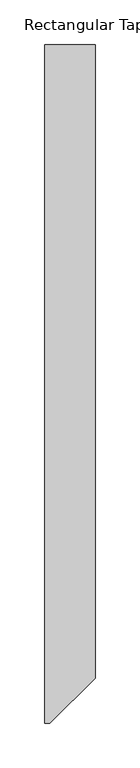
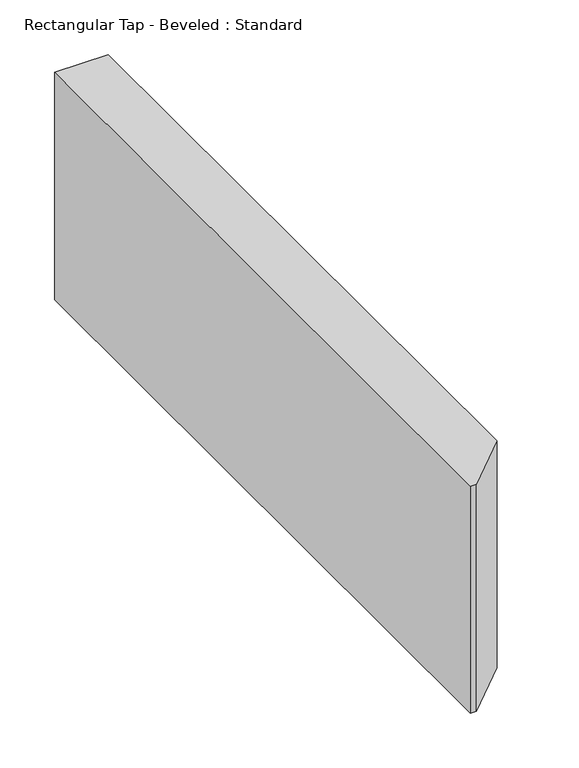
"""IFC4 building model written with IfcOpenShell, lengths in millimetres: duct fitting geometry, Rectangular Tap - Beveled : Standard."""

from ifc_helpers import new_model, si_unit, frame, origin, place, context, project, spatial, polyline, outline, extrude, source, transform, mapped, element, save


def rectangular_tap_beveled_standard_61150e1b(model_context):
    return source(origin(), model_context, "Body", "SweptSolid", [
        extrude(outline(polyline([(50.8, 355.6), (50.8, -355.6), (0.0, -406.4), (-6.096, -406.4), (-6.096, 355.6), (50.8, 355.6)])), frame((0.0, 0.0, -127.0), z_axis=(0.0, 0.0, 1.0), x_axis=(1.0, 0.0, 0.0)), (0.0, 0.0, 1.0), 254.0),
    ])


if __name__ == "__main__":
    model = new_model("IFC4")
    model_context = context("Model", 3, world=origin())
    ifc_project = project(units=[si_unit("LENGTHUNIT", "METRE", prefix="MILLI")], contexts=[model_context])
    site = spatial("IfcSite", under=ifc_project)
    building = spatial("IfcBuilding", under=site)
    placement = place(None, origin())
    rectangular_tap_beveled_standard_shape = rectangular_tap_beveled_standard_61150e1b(model_context)
    element("IfcDuctFitting", 1, ObjectType="Rectangular Tap - Beveled : Standard", at=placement, inside=building, context=model_context, shape_type="MappedRepresentation", body=[
        mapped(rectangular_tap_beveled_standard_shape, transform((0.0, 0.0, 0.0), x_axis=(1.0, 0.0, 0.0), y_axis=(0.0, 1.0, 0.0), z_axis=(0.0, 0.0, 1.0))),
    ])
    save(model, "model.ifc")
